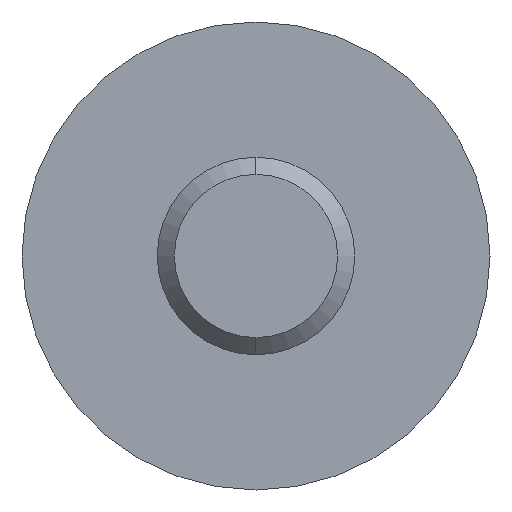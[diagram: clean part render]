
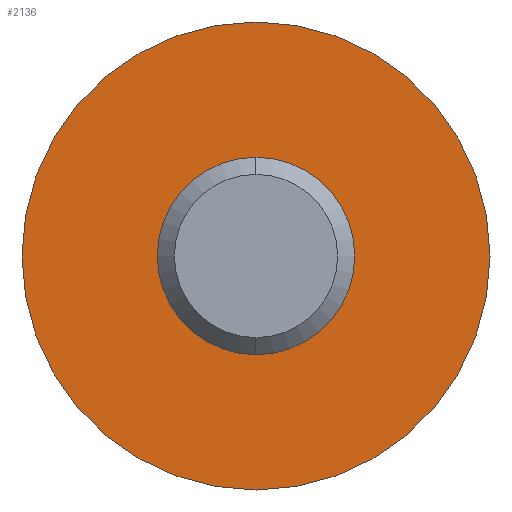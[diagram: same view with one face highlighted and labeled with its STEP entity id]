
A CAD part, left-side view. The second image highlights one B-rep face of the part: STEP entity #2136.
In plain terms, the highlighted planar face has unit normal (-1, 0, 0).
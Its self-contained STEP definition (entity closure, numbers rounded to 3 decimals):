
#65 = AXIS2_PLACEMENT_3D ( 'NONE', #962, #944, #931 ) ;
#78 = AXIS2_PLACEMENT_3D ( 'NONE', #1138, #1129, #1120 ) ;
#244 = EDGE_CURVE ( 'NONE', #1400, #1479, #703, .T. ) ;
#246 = CARTESIAN_POINT ( 'NONE',  ( -5.173, 0.95, 0. ) ) ;
#263 = EDGE_CURVE ( 'NONE', #1877, #1776, #706, .T. ) ;
#375 = CARTESIAN_POINT ( 'NONE',  ( -5.173, 0., 0. ) ) ;
#442 = FACE_BOUND ( 'NONE', #1660, .T. ) ;
#457 = CIRCLE ( 'NONE', #950, 0.95 ) ;
#580 = DIRECTION ( 'NONE',  ( 0., 0., 1. ) ) ;
#703 = CIRCLE ( 'NONE', #78, 2.725 ) ;
#706 = CIRCLE ( 'NONE', #65, 0.95 ) ;
#931 = DIRECTION ( 'NONE',  ( 0., 0., 1. ) ) ;
#944 = DIRECTION ( 'NONE',  ( -1., 0., 0. ) ) ;
#950 = AXIS2_PLACEMENT_3D ( 'NONE', #375, #1732, #580 ) ;
#962 = CARTESIAN_POINT ( 'NONE',  ( -5.173, 0., 0. ) ) ;
#997 = CARTESIAN_POINT ( 'NONE',  ( -5.173, 0., 2.725 ) ) ;
#1004 = DIRECTION ( 'NONE',  ( -1., 0., 0. ) ) ;
#1092 = ORIENTED_EDGE ( 'NONE', *, *, #1605, .F. ) ;
#1120 = DIRECTION ( 'NONE',  ( 0., 0., 1. ) ) ;
#1129 = DIRECTION ( 'NONE',  ( -1., 0., 0. ) ) ;
#1138 = CARTESIAN_POINT ( 'NONE',  ( -5.173, 0., 0. ) ) ;
#1162 = ORIENTED_EDGE ( 'NONE', *, *, #263, .F. ) ;
#1167 = ORIENTED_EDGE ( 'NONE', *, *, #1641, .T. ) ;
#1173 = ORIENTED_EDGE ( 'NONE', *, *, #244, .T. ) ;
#1188 = CARTESIAN_POINT ( 'NONE',  ( -5.173, 0., 0. ) ) ;
#1355 = CARTESIAN_POINT ( 'NONE',  ( -5.173, 0., 0.95 ) ) ;
#1400 = VERTEX_POINT ( 'NONE', #2241 ) ;
#1412 = DIRECTION ( 'NONE',  ( 1., 0., 0. ) ) ;
#1479 = VERTEX_POINT ( 'NONE', #997 ) ;
#1536 = AXIS2_PLACEMENT_3D ( 'NONE', #246, #1412, #1960 ) ;
#1605 = EDGE_CURVE ( 'NONE', #1776, #1877, #457, .T. ) ;
#1641 = EDGE_CURVE ( 'NONE', #1479, #1400, #1894, .T. ) ;
#1645 = EDGE_LOOP ( 'NONE', ( #1167, #1173 ) ) ;
#1660 = EDGE_LOOP ( 'NONE', ( #1092, #1162 ) ) ;
#1732 = DIRECTION ( 'NONE',  ( -1., 0., 0. ) ) ;
#1776 = VERTEX_POINT ( 'NONE', #1355 ) ;
#1787 = PLANE ( 'NONE',  #1536 ) ;
#1870 = DIRECTION ( 'NONE',  ( 0., 0., 1. ) ) ;
#1877 = VERTEX_POINT ( 'NONE', #2223 ) ;
#1894 = CIRCLE ( 'NONE', #2311, 2.725 ) ;
#1960 = DIRECTION ( 'NONE',  ( 0., 0., -1. ) ) ;
#2136 = ADVANCED_FACE ( 'NONE', ( #442, #2265 ), #1787, .F. ) ;
#2223 = CARTESIAN_POINT ( 'NONE',  ( -5.173, 0., -0.95 ) ) ;
#2241 = CARTESIAN_POINT ( 'NONE',  ( -5.173, 0., -2.725 ) ) ;
#2265 = FACE_OUTER_BOUND ( 'NONE', #1645, .T. ) ;
#2311 = AXIS2_PLACEMENT_3D ( 'NONE', #1188, #1004, #1870 ) ;
